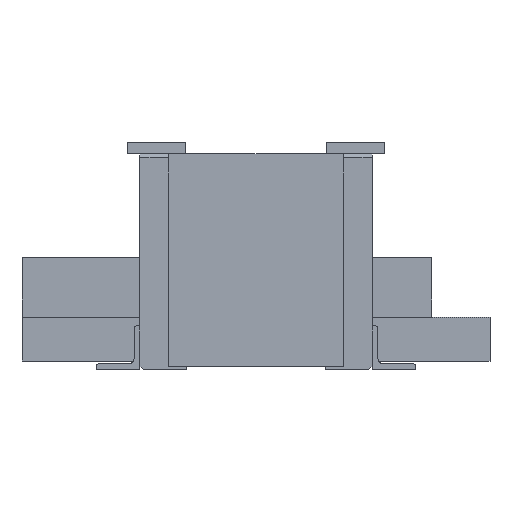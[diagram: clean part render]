
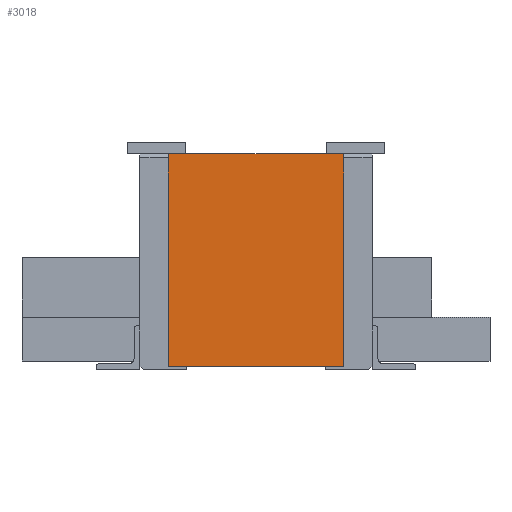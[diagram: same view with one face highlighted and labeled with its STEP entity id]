
A CAD part, front view. The second image highlights one B-rep face of the part: STEP entity #3018.
In plain terms, the highlighted planar face has unit normal (0, -1, 0).
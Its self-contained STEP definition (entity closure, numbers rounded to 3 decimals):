
#235=FACE_OUTER_BOUND('',#383,.T.);
#383=EDGE_LOOP('',(#2194,#2195,#2196,#2197,#2198,#2199));
#637=LINE('',#4467,#967);
#666=LINE('',#4529,#996);
#669=LINE('',#4535,#999);
#673=LINE('',#4542,#1003);
#677=LINE('',#4548,#1007);
#679=LINE('',#4551,#1009);
#967=VECTOR('',#3624,30.);
#996=VECTOR('',#3665,364.);
#999=VECTOR('',#3670,300.);
#1003=VECTOR('',#3676,364.);
#1007=VECTOR('',#3682,240.);
#1009=VECTOR('',#3686,30.);
#1276=VERTEX_POINT('',#4464);
#1277=VERTEX_POINT('',#4466);
#1304=VERTEX_POINT('',#4528);
#1306=VERTEX_POINT('',#4534);
#1308=VERTEX_POINT('',#4541);
#1309=VERTEX_POINT('',#4546);
#1599=EDGE_CURVE('',#1276,#1277,#637,.T.);
#1630=EDGE_CURVE('',#1304,#1277,#666,.T.);
#1633=EDGE_CURVE('',#1306,#1304,#669,.T.);
#1637=EDGE_CURVE('',#1308,#1306,#673,.T.);
#1641=EDGE_CURVE('',#1276,#1309,#677,.T.);
#1643=EDGE_CURVE('',#1308,#1309,#679,.T.);
#2194=ORIENTED_EDGE('',*,*,#1599,.F.);
#2195=ORIENTED_EDGE('',*,*,#1641,.T.);
#2196=ORIENTED_EDGE('',*,*,#1643,.F.);
#2197=ORIENTED_EDGE('',*,*,#1637,.T.);
#2198=ORIENTED_EDGE('',*,*,#1633,.T.);
#2199=ORIENTED_EDGE('',*,*,#1630,.T.);
#2754=PLANE('',#3194);
#3018=ADVANCED_FACE('',(#235),#2754,.T.);
#3194=AXIS2_PLACEMENT_3D('',#4550,#3684,#3685);
#3624=DIRECTION('',(1.,0.,0.));
#3665=DIRECTION('',(0.,0.,1.));
#3670=DIRECTION('',(1.,0.,0.));
#3676=DIRECTION('',(0.,0.,-1.));
#3682=DIRECTION('',(-1.,0.,0.));
#3684=DIRECTION('center_axis',(0.,-1.,0.));
#3685=DIRECTION('ref_axis',(1.,0.,0.));
#3686=DIRECTION('',(1.,0.,0.));
#4464=CARTESIAN_POINT('',(-3299.873,-5078.083,-1005.829));
#4466=CARTESIAN_POINT('',(-3269.873,-5078.083,-1005.829));
#4467=CARTESIAN_POINT('',(-3309.873,-5078.083,-1005.829));
#4528=CARTESIAN_POINT('',(-3269.873,-5078.083,-1369.829));
#4529=CARTESIAN_POINT('',(-3269.873,-5078.083,-1005.829));
#4534=CARTESIAN_POINT('',(-3569.873,-5078.083,-1369.829));
#4535=CARTESIAN_POINT('',(-3269.873,-5078.083,-1369.829));
#4541=CARTESIAN_POINT('',(-3569.873,-5078.083,-1005.829));
#4542=CARTESIAN_POINT('',(-3569.873,-5078.083,-1369.829));
#4546=CARTESIAN_POINT('',(-3539.873,-5078.083,-1005.829));
#4548=CARTESIAN_POINT('',(-3569.873,-5078.083,-1005.829));
#4550=CARTESIAN_POINT('Origin',(-3419.873,-5078.083,-1187.829));
#4551=CARTESIAN_POINT('',(-3479.873,-5078.083,-1005.829));
